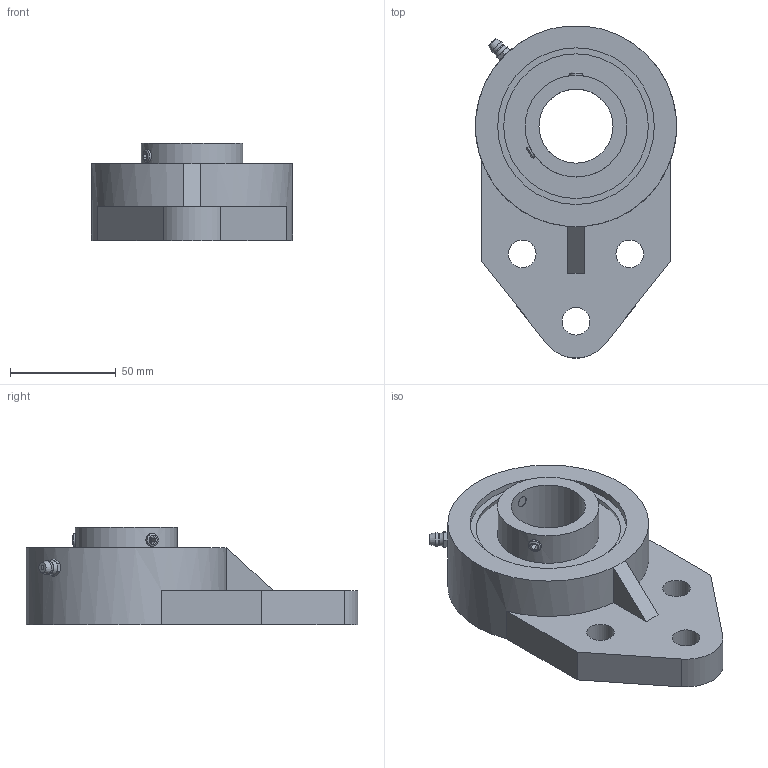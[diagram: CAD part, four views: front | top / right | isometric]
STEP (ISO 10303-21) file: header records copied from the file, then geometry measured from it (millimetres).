
FILE_DESCRIPTION(/* description */ (''),/* implementation_level */ '2;1');
FILE_NAME(/* name */ 'C:\Users\UGijyutu_200702\Desktop\77.プラスチックハウジング\MBFBL200V\MBFBL200V\MBFBL207V.stp',/* time_stamp */ '2023-05-08T16:15:34+09:00',/* author */ ('UGijyutu_200702'),/* organization */ (''),/* preprocessor_version */ 'ST-DEVELOPER v18',/* originating_system */ 'Autodesk Inventor 2020',/* authorisation */ '');
FILE_SCHEMA (('AUTOMOTIVE_DESIGN { 1 0 10303 214 3 1 1 }'));
Length unit declared in the file: millimetre
Products named in the file (4): MBFBL207V; FBL207; MB7 V; 1/4-28UNF-2A
Assembly tree (3 placements, depth 2):
  MBFBL207V
    FBL207
    MB7 V
    1/4-28UNF-2A
Bounding box: 94.98 x 156.78 x 46.1 mm (x, y, z)
Volume: 238712.8 mm3; surface area: 54957.3 mm2
Topology: 3 solids, 3 shells, 84 faces, 209 edges, 143 vertices
Faces by surface type: plane 44, cylinder 19, cone 15, sphere 4, torus 2
Full cylindrical faces by diameter (mm): 3.2 x1, 4.978 x1, 6 x2, 6.35 x1, 13.1 x3, 35 x1, 48 x1, 74 x2, 82 x1
Entity records: 2936 total; most frequent: CARTESIAN_POINT 697, DIRECTION 440, ORIENTED_EDGE 416, EDGE_CURVE 208, AXIS2_PLACEMENT_3D 179, VERTEX_POINT 143, EDGE_LOOP 109, CIRCLE 88
